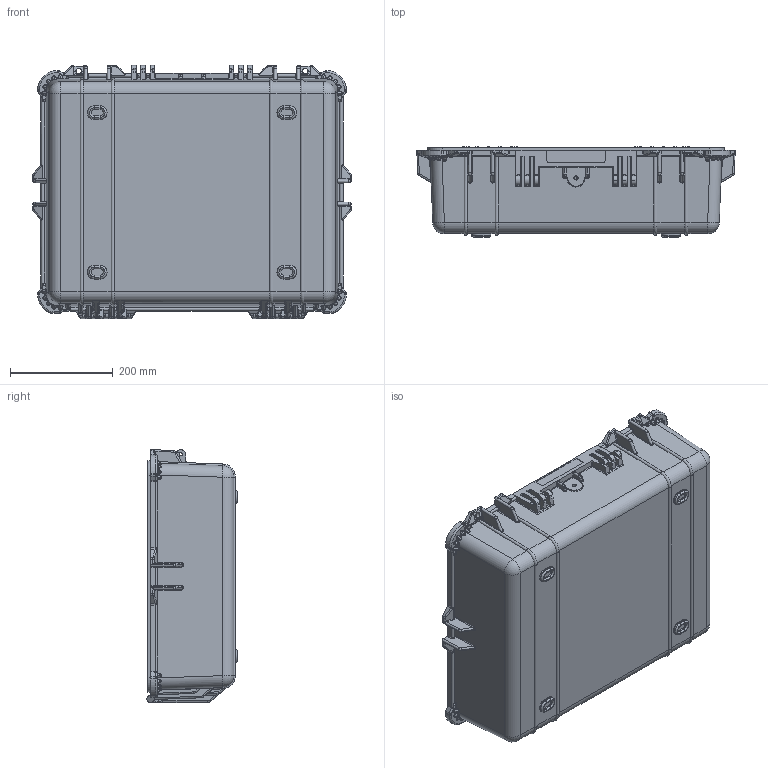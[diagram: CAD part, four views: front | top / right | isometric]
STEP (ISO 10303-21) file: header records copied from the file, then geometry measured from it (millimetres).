
FILE_DESCRIPTION (( 'STEP AP214' ), '1' );
FILE_NAME ('1600E – 931 BOTTOM PID 2-21-2025.STEP', '2025-02-25T20:18:58', ( '' ), ( '' ), 'SwSTEP 2.0', 'SolidWorks 2021', '' );
FILE_SCHEMA (( 'AUTOMOTIVE_DESIGN' ));
Products named in the file (1): 1600E – 931 BOTTOM PID 2-21-2025
Bounding box: 618.58 x 175.26 x 491.75 mm (x, y, z)
Volume: 3528362.8 mm3; surface area: 1239928.1 mm2
Topology: 1 solids, 1 shells, 2025 faces, 5134 edges, 3008 vertices
Faces by surface type: cylinder 754, plane 614, bspline 461, torus 128, sphere 60, cone 8
Entity records: 72413 total; most frequent: CARTESIAN_POINT 28579, ORIENTED_EDGE 10082, DIRECTION 8440, EDGE_CURVE 5041, AXIS2_PLACEMENT_3D 3087, VERTEX_POINT 3008, VECTOR 2266, LINE 2266
